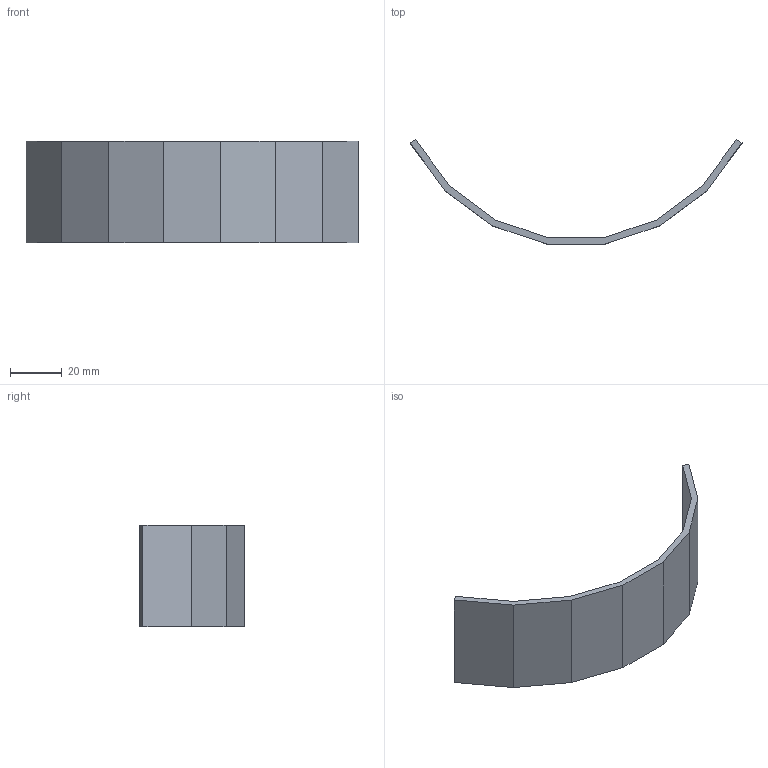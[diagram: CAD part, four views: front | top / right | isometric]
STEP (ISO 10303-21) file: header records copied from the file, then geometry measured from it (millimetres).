
FILE_DESCRIPTION(('Open CASCADE Model'),'2;1');
FILE_NAME('Open CASCADE Shape Model','2026-09-19T23:46:41',('Author'),( 'Open CASCADE'),'Open CASCADE STEP processor 7.9','Open CASCADE 7.9' ,'Unknown');
FILE_SCHEMA(('AUTOMOTIVE_DESIGN { 1 0 10303 214 1 1 1 1 }'));
Length unit declared in the file: millimetre
Products named in the file (1): Open CASCADE STEP translator 7.9 83
Bounding box: 128.17 x 40.36 x 39 mm (x, y, z)
Volume: 14985.3 mm3; surface area: 13093.1 mm2
Topology: 1 solids, 1 shells, 18 faces, 48 edges, 32 vertices
Faces by surface type: plane 18
Entity records: 1138 total; most frequent: CARTESIAN_POINT 243, DIRECTION 134, ORIENTED_EDGE 96, LINE 96, VECTOR 96, PCURVE 96, DEFINITIONAL_REPRESENTATION 96, EDGE_CURVE 48
